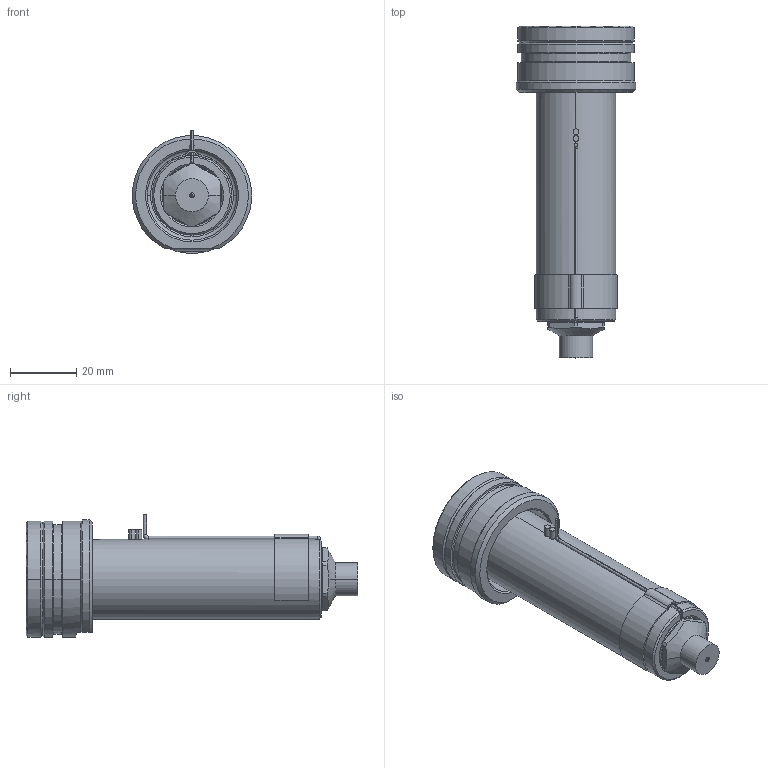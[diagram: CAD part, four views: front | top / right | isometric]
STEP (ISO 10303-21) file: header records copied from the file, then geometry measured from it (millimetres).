
FILE_DESCRIPTION((''),'2;1');
FILE_NAME('EO06_PG-FB_STD_080_SW','2024-02-19T11:25:11',('sundharh'),(''),'CREO PARAMETRIC BY PTC INC, 2023154','CREO PARAMETRIC BY PTC INC, 2023154','');
FILE_SCHEMA(('CONFIG_CONTROL_DESIGN'));
Length unit declared in the file: millimetre
Products named in the file (1): EO06_PG-FB_STD_080_SW
Bounding box: 35.93 x 100 x 37 mm (x, y, z)
Volume: 47611.9 mm3; surface area: 15232.8 mm2
Topology: 2 solids, 2 shells, 210 faces, 564 edges, 346 vertices
Faces by surface type: cylinder 85, plane 55, cone 40, torus 21, bspline 6, sphere 3
Entity records: 7533 total; most frequent: CARTESIAN_POINT 2187, DIRECTION 1179, ORIENTED_EDGE 1112, EDGE_CURVE 556, AXIS2_PLACEMENT_3D 496, VERTEX_POINT 346, CIRCLE 292, EDGE_LOOP 226
